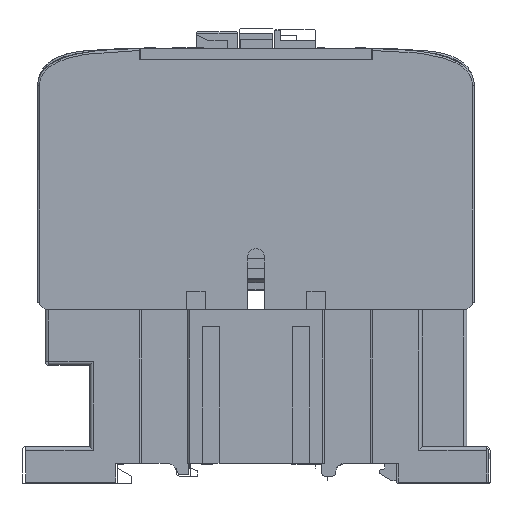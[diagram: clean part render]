
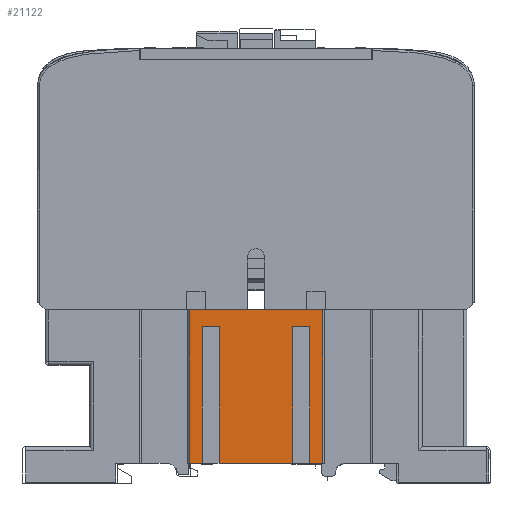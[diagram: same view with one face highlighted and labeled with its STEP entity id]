
A CAD part, front view. The second image highlights one B-rep face of the part: STEP entity #21122.
In plain terms, the highlighted planar face has unit normal (0, -1, 0).
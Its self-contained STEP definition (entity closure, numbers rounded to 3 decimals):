
#712=DIRECTION('',(1.,0.,0.));
#713=VECTOR('',#712,36.);
#714=CARTESIAN_POINT('',(-18.,-42.15,37.));
#715=LINE('',#714,#713);
#7071=DIRECTION('',(0.,0.,-1.));
#7072=VECTOR('',#7071,41.5);
#7073=CARTESIAN_POINT('',(-18.,-42.15,37.));
#7074=LINE('',#7073,#7072);
#7075=DIRECTION('',(0.,0.,1.));
#7076=VECTOR('',#7075,41.5);
#7077=CARTESIAN_POINT('',(18.,-42.15,-4.5));
#7078=LINE('',#7077,#7076);
#7079=DIRECTION('',(1.,0.,0.));
#7080=VECTOR('',#7079,3.405);
#7081=CARTESIAN_POINT('',(14.595,-42.15,-4.5));
#7082=LINE('',#7081,#7080);
#7083=DIRECTION('',(0.,0.,1.));
#7084=VECTOR('',#7083,37.);
#7085=CARTESIAN_POINT('',(14.595,-42.15,-4.5));
#7086=LINE('',#7085,#7084);
#7087=DIRECTION('',(-1.,0.,0.));
#7088=VECTOR('',#7087,4.595);
#7089=CARTESIAN_POINT('',(14.595,-42.15,32.5));
#7090=LINE('',#7089,#7088);
#7091=DIRECTION('',(0.,0.,1.));
#7092=VECTOR('',#7091,37.);
#7093=CARTESIAN_POINT('',(10.,-42.15,-4.5));
#7094=LINE('',#7093,#7092);
#7095=DIRECTION('',(1.,0.,0.));
#7096=VECTOR('',#7095,20.);
#7097=CARTESIAN_POINT('',(-10.,-42.15,-4.5));
#7098=LINE('',#7097,#7096);
#7099=DIRECTION('',(0.,0.,1.));
#7100=VECTOR('',#7099,37.);
#7101=CARTESIAN_POINT('',(-10.,-42.15,-4.5));
#7102=LINE('',#7101,#7100);
#7103=DIRECTION('',(-1.,0.,0.));
#7104=VECTOR('',#7103,4.595);
#7105=CARTESIAN_POINT('',(-10.,-42.15,32.5));
#7106=LINE('',#7105,#7104);
#7107=DIRECTION('',(0.,0.,1.));
#7108=VECTOR('',#7107,37.);
#7109=CARTESIAN_POINT('',(-14.595,-42.15,-4.5));
#7110=LINE('',#7109,#7108);
#7111=DIRECTION('',(1.,0.,0.));
#7112=VECTOR('',#7111,3.405);
#7113=CARTESIAN_POINT('',(-18.,-42.15,-4.5));
#7114=LINE('',#7113,#7112);
#12165=CARTESIAN_POINT('',(14.595,-42.15,32.5));
#12166=CARTESIAN_POINT('',(10.,-42.15,32.5));
#12167=VERTEX_POINT('',#12165);
#12168=VERTEX_POINT('',#12166);
#12169=CARTESIAN_POINT('',(-10.,-42.15,32.5));
#12170=CARTESIAN_POINT('',(-14.595,-42.15,32.5));
#12171=VERTEX_POINT('',#12169);
#12172=VERTEX_POINT('',#12170);
#12173=CARTESIAN_POINT('',(-10.,-42.15,-4.5));
#12174=CARTESIAN_POINT('',(10.,-42.15,-4.5));
#12175=VERTEX_POINT('',#12173);
#12176=VERTEX_POINT('',#12174);
#12181=CARTESIAN_POINT('',(14.595,-42.15,-4.5));
#12182=VERTEX_POINT('',#12181);
#12183=CARTESIAN_POINT('',(-14.595,-42.15,-4.5));
#12185=VERTEX_POINT('',#12183);
#13429=CARTESIAN_POINT('',(-18.,-42.15,-4.5));
#13431=VERTEX_POINT('',#13429);
#13435=CARTESIAN_POINT('',(-18.,-42.15,37.));
#13436=VERTEX_POINT('',#13435);
#13437=CARTESIAN_POINT('',(18.,-42.15,37.));
#13438=VERTEX_POINT('',#13437);
#13443=CARTESIAN_POINT('',(18.,-42.15,-4.5));
#13444=VERTEX_POINT('',#13443);
#21095=CARTESIAN_POINT('',(-45.,-42.15,0.));
#21096=DIRECTION('',(0.,-1.,0.));
#21097=DIRECTION('',(1.,0.,0.));
#21098=AXIS2_PLACEMENT_3D('',#21095,#21096,#21097);
#21099=PLANE('',#21098);
#21101=ORIENTED_EDGE('',*,*,#21100,.F.);
#21102=ORIENTED_EDGE('',*,*,#14656,.T.);
#21104=ORIENTED_EDGE('',*,*,#21103,.F.);
#21105=ORIENTED_EDGE('',*,*,#15604,.F.);
#21107=ORIENTED_EDGE('',*,*,#21106,.T.);
#21109=ORIENTED_EDGE('',*,*,#21108,.T.);
#21111=ORIENTED_EDGE('',*,*,#21110,.F.);
#21112=ORIENTED_EDGE('',*,*,#15596,.F.);
#21114=ORIENTED_EDGE('',*,*,#21113,.T.);
#21116=ORIENTED_EDGE('',*,*,#21115,.T.);
#21118=ORIENTED_EDGE('',*,*,#21117,.F.);
#21119=ORIENTED_EDGE('',*,*,#15588,.F.);
#21120=EDGE_LOOP('',(#21101,#21102,#21104,#21105,#21107,#21109,#21111,#21112,
#21114,#21116,#21118,#21119));
#21121=FACE_OUTER_BOUND('',#21120,.F.);
#21122=ADVANCED_FACE('',(#21121),#21099,.T.);
#14656=EDGE_CURVE('',#13436,#13438,#715,.T.);
#15588=EDGE_CURVE('',#13431,#12185,#7114,.T.);
#15596=EDGE_CURVE('',#12175,#12176,#7098,.T.);
#15604=EDGE_CURVE('',#12182,#13444,#7082,.T.);
#21100=EDGE_CURVE('',#13436,#13431,#7074,.T.);
#21103=EDGE_CURVE('',#13444,#13438,#7078,.T.);
#21106=EDGE_CURVE('',#12182,#12167,#7086,.T.);
#21108=EDGE_CURVE('',#12167,#12168,#7090,.T.);
#21110=EDGE_CURVE('',#12176,#12168,#7094,.T.);
#21113=EDGE_CURVE('',#12175,#12171,#7102,.T.);
#21115=EDGE_CURVE('',#12171,#12172,#7106,.T.);
#21117=EDGE_CURVE('',#12185,#12172,#7110,.T.);
